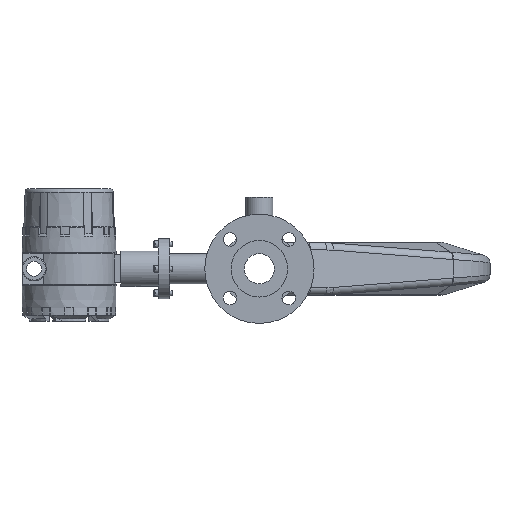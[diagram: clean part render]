
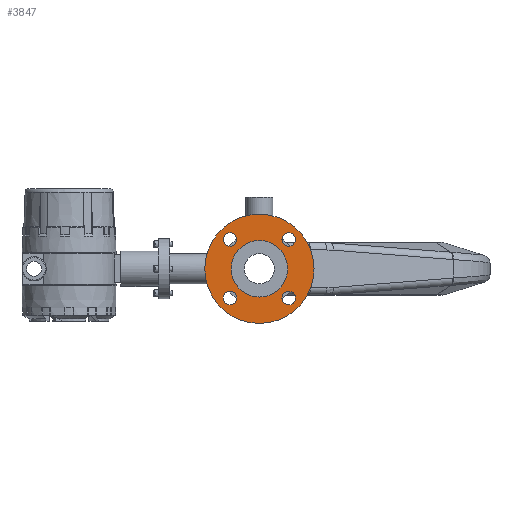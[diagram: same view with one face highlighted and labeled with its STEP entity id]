
A CAD part, left-side view. The second image highlights one B-rep face of the part: STEP entity #3847.
In plain terms, the highlighted planar face has unit normal (-1, 0, 0).
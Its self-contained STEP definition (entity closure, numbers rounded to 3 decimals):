
#3847=ADVANCED_FACE('',(#9522,#9524,#9526,#9528,#9530,#9532),#9534,.F.);
#9522=FACE_BOUND('',#9523,.T.);
#9523=EDGE_LOOP('',(#11539));
#9524=FACE_BOUND('',#9525,.T.);
#9525=EDGE_LOOP('',(#11540));
#9526=FACE_BOUND('',#9527,.T.);
#9527=EDGE_LOOP('',(#11541));
#9528=FACE_BOUND('',#9529,.T.);
#9529=EDGE_LOOP('',(#11542));
#9530=FACE_BOUND('',#9531,.T.);
#9531=EDGE_LOOP('',(#11543));
#9532=FACE_BOUND('',#9533,.T.);
#9533=EDGE_LOOP('',(#11544));
#9534=PLANE('',#9535);
#9535=AXIS2_PLACEMENT_3D('',#9536,#9537,#9538);
#9536=CARTESIAN_POINT('',(-383.684,87.798,600.));
#9537=DIRECTION('',(1.,0.,0.));
#9538=DIRECTION('',(0.,1.,0.));
#11539=ORIENTED_EDGE('',*,*,#12506,.T.);
#11540=ORIENTED_EDGE('',*,*,#12533,.T.);
#11541=ORIENTED_EDGE('',*,*,#12508,.F.);
#11542=ORIENTED_EDGE('',*,*,#12507,.F.);
#11543=ORIENTED_EDGE('',*,*,#12510,.F.);
#11544=ORIENTED_EDGE('',*,*,#12509,.F.);
#12506=EDGE_CURVE('',#14091,#14091,#14092,.T.);
#12507=EDGE_CURVE('',#14093,#14093,#14094,.F.);
#12508=EDGE_CURVE('',#14095,#14095,#14096,.F.);
#12509=EDGE_CURVE('',#14097,#14097,#14098,.F.);
#12510=EDGE_CURVE('',#14099,#14099,#14100,.F.);
#12533=EDGE_CURVE('',#14129,#14129,#14130,.T.);
#14091=VERTEX_POINT('',#21005);
#14092=CIRCLE('',#21006,72.5);
#14093=VERTEX_POINT('',#21010);
#14094=CIRCLE('',#21011,9.);
#14095=VERTEX_POINT('',#21015);
#14096=CIRCLE('',#21016,9.);
#14097=VERTEX_POINT('',#21020);
#14098=CIRCLE('',#21021,9.);
#14099=VERTEX_POINT('',#21025);
#14100=CIRCLE('',#21026,9.);
#14129=VERTEX_POINT('',#21356);
#14130=CIRCLE('',#21357,37.5);
#21005=CARTESIAN_POINT('',(-383.684,87.798,672.5));
#21006=AXIS2_PLACEMENT_3D('',#21007,#21008,#21009);
#21007=CARTESIAN_POINT('',(-383.684,87.798,600.));
#21008=DIRECTION('',(-1.,-0.,-0.));
#21009=DIRECTION('',(0.,0.,1.));
#21010=CARTESIAN_POINT('',(-383.684,48.907,552.109));
#21011=AXIS2_PLACEMENT_3D('',#21012,#21013,#21014);
#21012=CARTESIAN_POINT('',(-383.684,48.907,561.109));
#21013=DIRECTION('',(1.,0.,0.));
#21014=DIRECTION('',(0.,0.,1.));
#21015=CARTESIAN_POINT('',(-383.684,126.689,552.109));
#21016=AXIS2_PLACEMENT_3D('',#21017,#21018,#21019);
#21017=CARTESIAN_POINT('',(-383.684,126.689,561.109));
#21018=DIRECTION('',(1.,0.,0.));
#21019=DIRECTION('',(0.,0.,1.));
#21020=CARTESIAN_POINT('',(-383.684,126.689,629.891));
#21021=AXIS2_PLACEMENT_3D('',#21022,#21023,#21024);
#21022=CARTESIAN_POINT('',(-383.684,126.689,638.891));
#21023=DIRECTION('',(1.,0.,0.));
#21024=DIRECTION('',(0.,0.,1.));
#21025=CARTESIAN_POINT('',(-383.684,48.907,629.891));
#21026=AXIS2_PLACEMENT_3D('',#21027,#21028,#21029);
#21027=CARTESIAN_POINT('',(-383.684,48.907,638.891));
#21028=DIRECTION('',(1.,0.,0.));
#21029=DIRECTION('',(0.,0.,1.));
#21356=CARTESIAN_POINT('',(-383.684,125.298,600.));
#21357=AXIS2_PLACEMENT_3D('',#21358,#21359,#21360);
#21358=CARTESIAN_POINT('',(-383.684,87.798,600.));
#21359=DIRECTION('',(1.,0.,0.));
#21360=DIRECTION('',(0.,1.,0.));
